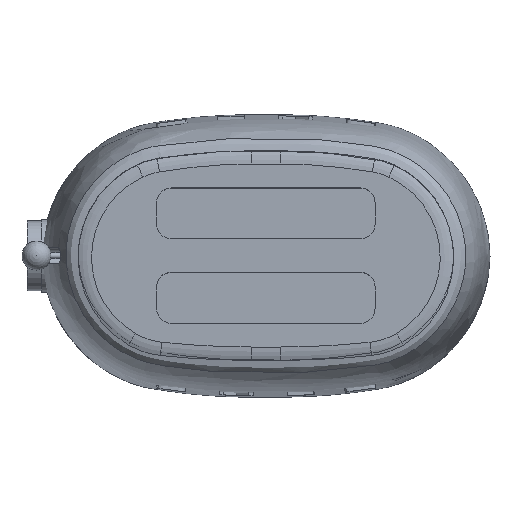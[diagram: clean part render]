
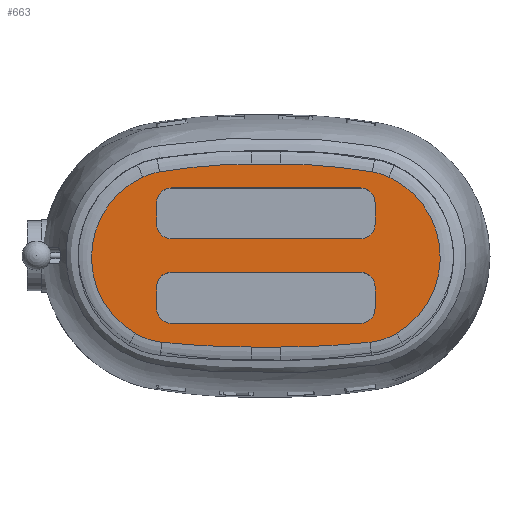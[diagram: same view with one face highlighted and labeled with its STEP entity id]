
A CAD part, top view. The second image highlights one B-rep face of the part: STEP entity #663.
In plain terms, the highlighted planar face has unit normal (0, 0, 1).
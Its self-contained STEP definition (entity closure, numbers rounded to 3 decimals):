
#274=PLANE('',#4848);
#663=ADVANCED_FACE('',(#910,#911,#912),#274,.T.);
#910=FACE_BOUND('',#956,.T.);
#911=FACE_BOUND('',#957,.T.);
#912=FACE_BOUND('',#958,.T.);
#956=EDGE_LOOP('',(#1243,#1244,#1245,#1246,#1247,#1248,#1249,#1250,#1251,
#1252,#1253,#1254));
#957=EDGE_LOOP('',(#1255,#1256,#1257,#1258,#1259,#1260,#1261,#1262));
#958=EDGE_LOOP('',(#1263,#1264,#1265,#1266,#1267,#1268,#1269,#1270));
#1243=ORIENTED_EDGE('',*,*,#2837,.T.);
#1244=ORIENTED_EDGE('',*,*,#2838,.T.);
#1245=ORIENTED_EDGE('',*,*,#2839,.T.);
#1246=ORIENTED_EDGE('',*,*,#2840,.T.);
#1247=ORIENTED_EDGE('',*,*,#2841,.T.);
#1248=ORIENTED_EDGE('',*,*,#2842,.T.);
#1249=ORIENTED_EDGE('',*,*,#2843,.T.);
#1250=ORIENTED_EDGE('',*,*,#2844,.T.);
#1251=ORIENTED_EDGE('',*,*,#2845,.T.);
#1252=ORIENTED_EDGE('',*,*,#2846,.T.);
#1253=ORIENTED_EDGE('',*,*,#2847,.T.);
#1254=ORIENTED_EDGE('',*,*,#2848,.T.);
#1255=ORIENTED_EDGE('',*,*,#2849,.T.);
#1256=ORIENTED_EDGE('',*,*,#2850,.T.);
#1257=ORIENTED_EDGE('',*,*,#2851,.T.);
#1258=ORIENTED_EDGE('',*,*,#2852,.T.);
#1259=ORIENTED_EDGE('',*,*,#2853,.T.);
#1260=ORIENTED_EDGE('',*,*,#2854,.T.);
#1261=ORIENTED_EDGE('',*,*,#2855,.T.);
#1262=ORIENTED_EDGE('',*,*,#2856,.T.);
#1263=ORIENTED_EDGE('',*,*,#2857,.T.);
#1264=ORIENTED_EDGE('',*,*,#2858,.T.);
#1265=ORIENTED_EDGE('',*,*,#2859,.T.);
#1266=ORIENTED_EDGE('',*,*,#2860,.T.);
#1267=ORIENTED_EDGE('',*,*,#2861,.T.);
#1268=ORIENTED_EDGE('',*,*,#2862,.T.);
#1269=ORIENTED_EDGE('',*,*,#2863,.T.);
#1270=ORIENTED_EDGE('',*,*,#2864,.T.);
#2425=VERTEX_POINT('',#7083);
#2426=VERTEX_POINT('',#7084);
#2427=VERTEX_POINT('',#7086);
#2428=VERTEX_POINT('',#7088);
#2429=VERTEX_POINT('',#7090);
#2430=VERTEX_POINT('',#7092);
#2431=VERTEX_POINT('',#7094);
#2432=VERTEX_POINT('',#7096);
#2433=VERTEX_POINT('',#7098);
#2434=VERTEX_POINT('',#7100);
#2435=VERTEX_POINT('',#7102);
#2436=VERTEX_POINT('',#7104);
#2437=VERTEX_POINT('',#7107);
#2438=VERTEX_POINT('',#7108);
#2439=VERTEX_POINT('',#7110);
#2440=VERTEX_POINT('',#7112);
#2441=VERTEX_POINT('',#7114);
#2442=VERTEX_POINT('',#7116);
#2443=VERTEX_POINT('',#7118);
#2444=VERTEX_POINT('',#7120);
#2445=VERTEX_POINT('',#7123);
#2446=VERTEX_POINT('',#7124);
#2447=VERTEX_POINT('',#7126);
#2448=VERTEX_POINT('',#7128);
#2449=VERTEX_POINT('',#7130);
#2450=VERTEX_POINT('',#7132);
#2451=VERTEX_POINT('',#7134);
#2452=VERTEX_POINT('',#7136);
#2837=EDGE_CURVE('',#2425,#2426,#3737,.T.);
#2838=EDGE_CURVE('',#2426,#2427,#3738,.T.);
#2839=EDGE_CURVE('',#2427,#2428,#3739,.T.);
#2840=EDGE_CURVE('',#2428,#2429,#3740,.T.);
#2841=EDGE_CURVE('',#2429,#2430,#3741,.T.);
#2842=EDGE_CURVE('',#2430,#2431,#4273,.T.);
#2843=EDGE_CURVE('',#2431,#2432,#3742,.T.);
#2844=EDGE_CURVE('',#2432,#2433,#3743,.T.);
#2845=EDGE_CURVE('',#2433,#2434,#3744,.T.);
#2846=EDGE_CURVE('',#2434,#2435,#3745,.T.);
#2847=EDGE_CURVE('',#2435,#2436,#3746,.T.);
#2848=EDGE_CURVE('',#2436,#2425,#4274,.T.);
#2849=EDGE_CURVE('',#2437,#2438,#3747,.T.);
#2850=EDGE_CURVE('',#2438,#2439,#4275,.T.);
#2851=EDGE_CURVE('',#2439,#2440,#3748,.T.);
#2852=EDGE_CURVE('',#2440,#2441,#4276,.T.);
#2853=EDGE_CURVE('',#2441,#2442,#3749,.T.);
#2854=EDGE_CURVE('',#2442,#2443,#4277,.T.);
#2855=EDGE_CURVE('',#2443,#2444,#3750,.T.);
#2856=EDGE_CURVE('',#2444,#2437,#4278,.T.);
#2857=EDGE_CURVE('',#2445,#2446,#3751,.T.);
#2858=EDGE_CURVE('',#2446,#2447,#4279,.T.);
#2859=EDGE_CURVE('',#2447,#2448,#3752,.T.);
#2860=EDGE_CURVE('',#2448,#2449,#4280,.T.);
#2861=EDGE_CURVE('',#2449,#2450,#3753,.T.);
#2862=EDGE_CURVE('',#2450,#2451,#4281,.T.);
#2863=EDGE_CURVE('',#2451,#2452,#3754,.T.);
#2864=EDGE_CURVE('',#2452,#2445,#4282,.T.);
#3737=CIRCLE('',#4830,373.206);
#3738=CIRCLE('',#4831,45.835);
#3739=CIRCLE('',#4832,60.643);
#3740=CIRCLE('',#4833,45.835);
#3741=CIRCLE('',#4834,575.436);
#3742=CIRCLE('',#4835,575.436);
#3743=CIRCLE('',#4836,45.835);
#3744=CIRCLE('',#4837,60.643);
#3745=CIRCLE('',#4838,45.835);
#3746=CIRCLE('',#4839,373.206);
#3747=CIRCLE('',#4840,10.);
#3748=CIRCLE('',#4841,10.);
#3749=CIRCLE('',#4842,10.);
#3750=CIRCLE('',#4843,10.);
#3751=CIRCLE('',#4844,10.);
#3752=CIRCLE('',#4845,10.);
#3753=CIRCLE('',#4846,10.);
#3754=CIRCLE('',#4847,10.);
#4273=LINE('',#7093,#4519);
#4274=LINE('',#7105,#4520);
#4275=LINE('',#7109,#4521);
#4276=LINE('',#7113,#4522);
#4277=LINE('',#7117,#4523);
#4278=LINE('',#7121,#4524);
#4279=LINE('',#7125,#4525);
#4280=LINE('',#7129,#4526);
#4281=LINE('',#7133,#4527);
#4282=LINE('',#7137,#4528);
#4519=VECTOR('',#5336,1.);
#4520=VECTOR('',#5347,1.);
#4521=VECTOR('',#5350,1.);
#4522=VECTOR('',#5353,1.);
#4523=VECTOR('',#5356,1.);
#4524=VECTOR('',#5359,1.);
#4525=VECTOR('',#5362,1.);
#4526=VECTOR('',#5365,1.);
#4527=VECTOR('',#5368,1.);
#4528=VECTOR('',#5371,1.);
#4830=AXIS2_PLACEMENT_3D('',#7082,#5326,#5327);
#4831=AXIS2_PLACEMENT_3D('',#7085,#5328,#5329);
#4832=AXIS2_PLACEMENT_3D('',#7087,#5330,#5331);
#4833=AXIS2_PLACEMENT_3D('',#7089,#5332,#5333);
#4834=AXIS2_PLACEMENT_3D('',#7091,#5334,#5335);
#4835=AXIS2_PLACEMENT_3D('',#7095,#5337,#5338);
#4836=AXIS2_PLACEMENT_3D('',#7097,#5339,#5340);
#4837=AXIS2_PLACEMENT_3D('',#7099,#5341,#5342);
#4838=AXIS2_PLACEMENT_3D('',#7101,#5343,#5344);
#4839=AXIS2_PLACEMENT_3D('',#7103,#5345,#5346);
#4840=AXIS2_PLACEMENT_3D('',#7106,#5348,#5349);
#4841=AXIS2_PLACEMENT_3D('',#7111,#5351,#5352);
#4842=AXIS2_PLACEMENT_3D('',#7115,#5354,#5355);
#4843=AXIS2_PLACEMENT_3D('',#7119,#5357,#5358);
#4844=AXIS2_PLACEMENT_3D('',#7122,#5360,#5361);
#4845=AXIS2_PLACEMENT_3D('',#7127,#5363,#5364);
#4846=AXIS2_PLACEMENT_3D('',#7131,#5366,#5367);
#4847=AXIS2_PLACEMENT_3D('',#7135,#5369,#5370);
#4848=AXIS2_PLACEMENT_3D('',#7138,#5372,#5373);
#5326=DIRECTION('',(0.,0.,1.));
#5327=DIRECTION('',(1.,0.,0.));
#5328=DIRECTION('',(0.,0.,1.));
#5329=DIRECTION('',(1.,0.,0.));
#5330=DIRECTION('',(0.,0.,1.));
#5331=DIRECTION('',(1.,0.,0.));
#5332=DIRECTION('',(0.,0.,1.));
#5333=DIRECTION('',(1.,0.,0.));
#5334=DIRECTION('',(0.,0.,1.));
#5335=DIRECTION('',(1.,0.,0.));
#5336=DIRECTION('',(1.,0.,0.));
#5337=DIRECTION('',(0.,0.,1.));
#5338=DIRECTION('',(1.,0.,0.));
#5339=DIRECTION('',(0.,0.,1.));
#5340=DIRECTION('',(1.,0.,0.));
#5341=DIRECTION('',(0.,0.,1.));
#5342=DIRECTION('',(1.,0.,0.));
#5343=DIRECTION('',(0.,0.,1.));
#5344=DIRECTION('',(1.,0.,0.));
#5345=DIRECTION('',(0.,0.,1.));
#5346=DIRECTION('',(1.,0.,0.));
#5347=DIRECTION('',(-1.,0.,0.));
#5348=DIRECTION('',(0.,0.,-1.));
#5349=DIRECTION('',(1.,0.,0.));
#5350=DIRECTION('',(0.,1.,0.));
#5351=DIRECTION('',(0.,0.,-1.));
#5352=DIRECTION('',(1.,0.,0.));
#5353=DIRECTION('',(1.,0.,0.));
#5354=DIRECTION('',(0.,0.,-1.));
#5355=DIRECTION('',(1.,0.,0.));
#5356=DIRECTION('',(0.,-1.,0.));
#5357=DIRECTION('',(0.,0.,-1.));
#5358=DIRECTION('',(1.,0.,0.));
#5359=DIRECTION('',(-1.,0.,0.));
#5360=DIRECTION('',(0.,0.,-1.));
#5361=DIRECTION('',(1.,0.,0.));
#5362=DIRECTION('',(0.,1.,0.));
#5363=DIRECTION('',(0.,0.,-1.));
#5364=DIRECTION('',(1.,0.,0.));
#5365=DIRECTION('',(1.,0.,0.));
#5366=DIRECTION('',(0.,0.,-1.));
#5367=DIRECTION('',(1.,0.,0.));
#5368=DIRECTION('',(0.,-1.,0.));
#5369=DIRECTION('',(0.,0.,-1.));
#5370=DIRECTION('',(1.,0.,0.));
#5371=DIRECTION('',(-1.,0.,0.));
#5372=DIRECTION('',(0.,0.,1.));
#5373=DIRECTION('',(1.,0.,0.));
#7082=CARTESIAN_POINT('',(-10.,-310.372,202.));
#7083=CARTESIAN_POINT('',(-10.,62.835,202.));
#7084=CARTESIAN_POINT('',(-73.129,57.457,202.));
#7085=CARTESIAN_POINT('',(-65.376,12.283,202.));
#7086=CARTESIAN_POINT('',(-84.516,53.93,202.));
#7087=CARTESIAN_POINT('',(-59.192,-1.172,202.));
#7088=CARTESIAN_POINT('',(-89.764,-53.545,202.));
#7089=CARTESIAN_POINT('',(-66.657,-13.961,202.));
#7090=CARTESIAN_POINT('',(-71.561,-59.532,202.));
#7091=CARTESIAN_POINT('',(-10.,512.602,202.));
#7092=CARTESIAN_POINT('',(-10.,-62.835,202.));
#7093=CARTESIAN_POINT('',(10.,-62.835,202.));
#7094=CARTESIAN_POINT('',(10.,-62.835,202.));
#7095=CARTESIAN_POINT('',(10.,512.602,202.));
#7096=CARTESIAN_POINT('',(71.561,-59.532,202.));
#7097=CARTESIAN_POINT('',(66.657,-13.961,202.));
#7098=CARTESIAN_POINT('',(89.764,-53.545,202.));
#7099=CARTESIAN_POINT('',(59.192,-1.172,202.));
#7100=CARTESIAN_POINT('',(84.516,53.93,202.));
#7101=CARTESIAN_POINT('',(65.376,12.283,202.));
#7102=CARTESIAN_POINT('',(73.129,57.457,202.));
#7103=CARTESIAN_POINT('',(10.,-310.372,202.));
#7104=CARTESIAN_POINT('',(10.,62.835,202.));
#7105=CARTESIAN_POINT('',(-10.,62.835,202.));
#7106=CARTESIAN_POINT('',(-65.,21.5,202.));
#7107=CARTESIAN_POINT('',(-65.,11.5,202.));
#7108=CARTESIAN_POINT('',(-75.,21.5,202.));
#7109=CARTESIAN_POINT('',(-75.,-1.172,202.));
#7110=CARTESIAN_POINT('',(-75.,36.5,202.));
#7111=CARTESIAN_POINT('',(-65.,36.5,202.));
#7112=CARTESIAN_POINT('',(-65.,46.5,202.));
#7113=CARTESIAN_POINT('',(-59.192,46.5,202.));
#7114=CARTESIAN_POINT('',(65.,46.5,202.));
#7115=CARTESIAN_POINT('',(65.,36.5,202.));
#7116=CARTESIAN_POINT('',(75.,36.5,202.));
#7117=CARTESIAN_POINT('',(75.,-1.172,202.));
#7118=CARTESIAN_POINT('',(75.,21.5,202.));
#7119=CARTESIAN_POINT('',(65.,21.5,202.));
#7120=CARTESIAN_POINT('',(65.,11.5,202.));
#7121=CARTESIAN_POINT('',(-59.192,11.5,202.));
#7122=CARTESIAN_POINT('',(-65.,-36.5,202.));
#7123=CARTESIAN_POINT('',(-65.,-46.5,202.));
#7124=CARTESIAN_POINT('',(-75.,-36.5,202.));
#7125=CARTESIAN_POINT('',(-75.,-1.172,202.));
#7126=CARTESIAN_POINT('',(-75.,-21.5,202.));
#7127=CARTESIAN_POINT('',(-65.,-21.5,202.));
#7128=CARTESIAN_POINT('',(-65.,-11.5,202.));
#7129=CARTESIAN_POINT('',(-59.192,-11.5,202.));
#7130=CARTESIAN_POINT('',(65.,-11.5,202.));
#7131=CARTESIAN_POINT('',(65.,-21.5,202.));
#7132=CARTESIAN_POINT('',(75.,-21.5,202.));
#7133=CARTESIAN_POINT('',(75.,-1.172,202.));
#7134=CARTESIAN_POINT('',(75.,-36.5,202.));
#7135=CARTESIAN_POINT('',(65.,-36.5,202.));
#7136=CARTESIAN_POINT('',(65.,-46.5,202.));
#7137=CARTESIAN_POINT('',(-59.192,-46.5,202.));
#7138=CARTESIAN_POINT('',(-59.192,-1.172,202.));
